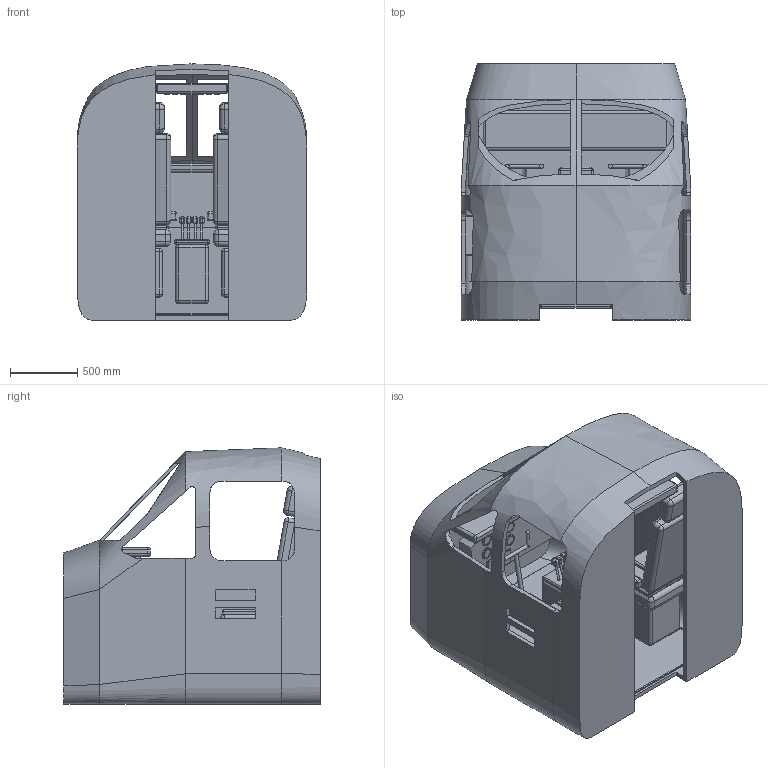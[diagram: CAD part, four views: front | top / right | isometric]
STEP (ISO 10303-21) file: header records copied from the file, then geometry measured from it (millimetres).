
FILE_DESCRIPTION(('Open CASCADE Model'),'2;1');
FILE_NAME('Open CASCADE Shape Model','2026-10-15T14:01:35',('Author'),( 'Open CASCADE'),'Open CASCADE STEP processor 7.8','Open CASCADE 7.8' ,'Unknown');
FILE_SCHEMA(('AUTOMOTIVE_DESIGN { 1 0 10303 214 1 1 1 1 }'));
Length unit declared in the file: millimetre
Products named in the file (67): Simworx_light_twin_cockpit; Cabin_shell_with_window_and_rear_openings; Cabin_floor_lining; Main_instrument_panel; Instrument_panel_glareshield; Gauge_rim_L1_0_0; Gauge_face_L1_0_0; Gauge_rim_L1_0_1; Gauge_face_L1_0_1; Gauge_rim_L1_0_2; Gauge_face_L1_0_2; Gauge_rim_L1_1_0; Gauge_face_L1_1_0; Gauge_rim_L1_1_1; Gauge_face_L1_1_1; Gauge_rim_L1_1_2; Gauge_face_L1_1_2; Avionics_display_L1; Gauge_rim_1_0_0; Gauge_face_1_0_0; Gauge_rim_1_0_1; Gauge_face_1_0_1; Gauge_rim_1_0_2; Gauge_face_1_0_2; Gauge_rim_1_1_0; Gauge_face_1_1_0; Gauge_rim_1_1_1; Gauge_face_1_1_1; Gauge_rim_1_1_2; Gauge_face_1_1_2; Avionics_display_1; Left_seat_pedestal; Left_seat_cushion; Left_seat_cushion_pad_L1; Left_seat_cushion_pad_1; Left_seat_back; Left_seat_headrest; Left_armrest_L1; Left_armrest_1; Left_yoke_and_column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
Assembly tree (66 placements, depth 2):
  Simworx_light_twin_cockpit
    Cabin_shell_with_window_and_rear_openings
    Cabin_floor_lining
    Main_instrument_panel
    Instrument_panel_glareshield
    Gauge_rim_L1_0_0
    Gauge_face_L1_0_0
    Gauge_rim_L1_0_1
    Gauge_face_L1_0_1
    Gauge_rim_L1_0_2
    Gauge_face_L1_0_2
    Gauge_rim_L1_1_0
    Gauge_face_L1_1_0
    Gauge_rim_L1_1_1
    Gauge_face_L1_1_1
    Gauge_rim_L1_1_2
    Gauge_face_L1_1_2
    Avionics_display_L1
    Gauge_rim_1_0_0
    Gauge_face_1_0_0
    Gauge_rim_1_0_1
    Gauge_face_1_0_1
    Gauge_rim_1_0_2
    Gauge_face_1_0_2
    Gauge_rim_1_1_0
    Gauge_face_1_1_0
    Gauge_rim_1_1_1
    Gauge_face_1_1_1
    Gauge_rim_1_1_2
    Gauge_face_1_1_2
    Avionics_display_1
    Left_seat_pedestal
    Left_seat_cushion
    Left_seat_cushion_pad_L1
    Left_seat_cushion_pad_1
    Left_seat_back
    Left_seat_headrest
    Left_armrest_L1
    Left_armrest_1
    Left_yoke_and_column
    Left_pedal_L1
    Left_pedal_1
    Right_seat_pedestal
    Right_seat_cushion
    Right_seat_cushion_pad_L1
    Right_seat_cushion_pad_1
    Right_seat_back
    Right_seat_headrest
    Right_armrest_L1
    Right_armrest_1
    Right_yoke_and_column
    Right_pedal_L1
    Right_pedal_1
    Centre_pedestal
    Centre_console_top
    Throttle_lever_1
    Throttle_lever_2
    Throttle_lever_3
    Throttle_lever_4
    Rear_overhead_panel
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Bounding box: 1700 x 1900 x 1900 mm (x, y, z)
Volume: 855994062.7 mm3; surface area: 41805467.5 mm2
Topology: 76 solids, 76 shells, 1244 faces, 2647 edges, 1240 vertices
Faces by surface type: cylinder 523, plane 361, sphere 308, bspline 52
Full cylindrical faces by diameter (mm): 16 x4, 28 x2, 30 x4, 32 x2, 68.952 x12, 88.4 x12
Entity records: 67846 total; most frequent: CARTESIAN_POINT 16661, DIRECTION 9894, LINE 5312, VECTOR 5312, ORIENTED_EDGE 4678, PCURVE 4678, DEFINITIONAL_REPRESENTATION 4678, EDGE_CURVE 2339
